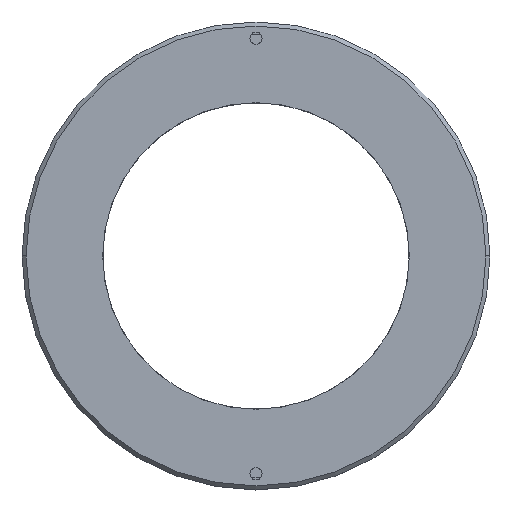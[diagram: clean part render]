
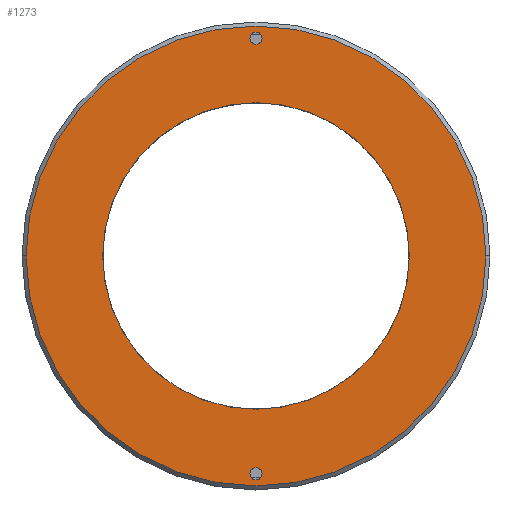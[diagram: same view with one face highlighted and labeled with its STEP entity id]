
A CAD part, top view. The second image highlights one B-rep face of the part: STEP entity #1273.
In plain terms, the highlighted planar face has unit normal (0, 0, 1).
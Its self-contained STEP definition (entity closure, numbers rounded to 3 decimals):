
#37 = DIRECTION ( 'NONE',  ( 0., -1., 0. ) ) ;
#50 = AXIS2_PLACEMENT_3D ( 'NONE', #1217, #609, #1316 ) ;
#57 = DIRECTION ( 'NONE',  ( 0., 0., 1. ) ) ;
#65 = DIRECTION ( 'NONE',  ( 0., 0., 1. ) ) ;
#71 = CIRCLE ( 'NONE', #831, 0.75 ) ;
#127 = CIRCLE ( 'NONE', #737, 0.75 ) ;
#217 = CARTESIAN_POINT ( 'NONE',  ( 8.816, -21.883, 7. ) ) ;
#232 = FACE_BOUND ( 'NONE', #1011, .T. ) ;
#262 = CARTESIAN_POINT ( 'NONE',  ( 9.566, -13.883, 7. ) ) ;
#269 = AXIS2_PLACEMENT_3D ( 'NONE', #1143, #534, #37 ) ;
#271 = DIRECTION ( 'NONE',  ( 0., 0., 1. ) ) ;
#324 = CARTESIAN_POINT ( 'NONE',  ( -18.934, 5.117, 7. ) ) ;
#332 = CARTESIAN_POINT ( 'NONE',  ( 9.566, 5.117, 7. ) ) ;
#363 = CARTESIAN_POINT ( 'NONE',  ( 9.566, 32.117, 7. ) ) ;
#365 = AXIS2_PLACEMENT_3D ( 'NONE', #954, #744, #441 ) ;
#384 = EDGE_CURVE ( 'NONE', #1321, #1322, #961, .T. ) ;
#391 = CIRCLE ( 'NONE', #1032, 0.75 ) ;
#434 = VERTEX_POINT ( 'NONE', #324 ) ;
#437 = DIRECTION ( 'NONE',  ( 1., 0., 0. ) ) ;
#441 = DIRECTION ( 'NONE',  ( 1., 0., 0. ) ) ;
#448 = EDGE_CURVE ( 'NONE', #475, #942, #391, .T. ) ;
#470 = DIRECTION ( 'NONE',  ( 1., 0., 0. ) ) ;
#475 = VERTEX_POINT ( 'NONE', #1289 ) ;
#490 = ORIENTED_EDGE ( 'NONE', *, *, #743, .T. ) ;
#505 = FACE_BOUND ( 'NONE', #1209, .T. ) ;
#510 = EDGE_CURVE ( 'NONE', #600, #759, #866, .T. ) ;
#520 = CARTESIAN_POINT ( 'NONE',  ( 9.566, -21.883, 7. ) ) ;
#526 = ORIENTED_EDGE ( 'NONE', *, *, #1266, .T. ) ;
#534 = DIRECTION ( 'NONE',  ( 0., 0., 1. ) ) ;
#546 = CARTESIAN_POINT ( 'NONE',  ( 38.066, 5.117, 7. ) ) ;
#548 = FACE_OUTER_BOUND ( 'NONE', #1247, .T. ) ;
#600 = VERTEX_POINT ( 'NONE', #217 ) ;
#609 = DIRECTION ( 'NONE',  ( 0., 0., 1. ) ) ;
#610 = ORIENTED_EDGE ( 'NONE', *, *, #704, .F. ) ;
#624 = EDGE_LOOP ( 'NONE', ( #708, #1106 ) ) ;
#633 = DIRECTION ( 'NONE',  ( -1., 0., 0. ) ) ;
#680 = CARTESIAN_POINT ( 'NONE',  ( 9.566, 32.117, 7. ) ) ;
#691 = CARTESIAN_POINT ( 'NONE',  ( 9.566, 5.117, 7. ) ) ;
#704 = EDGE_CURVE ( 'NONE', #942, #475, #127, .T. ) ;
#708 = ORIENTED_EDGE ( 'NONE', *, *, #891, .F. ) ;
#731 = CARTESIAN_POINT ( 'NONE',  ( 10.316, 32.117, 7. ) ) ;
#737 = AXIS2_PLACEMENT_3D ( 'NONE', #363, #1080, #470 ) ;
#743 = EDGE_CURVE ( 'NONE', #1294, #434, #1192, .T. ) ;
#744 = DIRECTION ( 'NONE',  ( 0., 0., 1. ) ) ;
#759 = VERTEX_POINT ( 'NONE', #1119 ) ;
#772 = DIRECTION ( 'NONE',  ( 1., 0., 0. ) ) ;
#781 = DIRECTION ( 'NONE',  ( 1., 0., 0. ) ) ;
#819 = CIRCLE ( 'NONE', #1074, 28.5 ) ;
#831 = AXIS2_PLACEMENT_3D ( 'NONE', #520, #1236, #633 ) ;
#866 = CIRCLE ( 'NONE', #50, 0.75 ) ;
#870 = AXIS2_PLACEMENT_3D ( 'NONE', #888, #271, #984 ) ;
#873 = CIRCLE ( 'NONE', #870, 19. ) ;
#888 = CARTESIAN_POINT ( 'NONE',  ( 9.566, 5.117, 7. ) ) ;
#891 = EDGE_CURVE ( 'NONE', #759, #600, #71, .T. ) ;
#942 = VERTEX_POINT ( 'NONE', #731 ) ;
#954 = CARTESIAN_POINT ( 'NONE',  ( 9.566, 5.117, 7. ) ) ;
#956 = ORIENTED_EDGE ( 'NONE', *, *, #1125, .F. ) ;
#961 = CIRCLE ( 'NONE', #269, 19. ) ;
#984 = DIRECTION ( 'NONE',  ( 0., -1., 0. ) ) ;
#1011 = EDGE_LOOP ( 'NONE', ( #610, #1265 ) ) ;
#1032 = AXIS2_PLACEMENT_3D ( 'NONE', #680, #57, #772 ) ;
#1040 = DIRECTION ( 'NONE',  ( 0., 0., 1. ) ) ;
#1044 = PLANE ( 'NONE',  #365 ) ;
#1048 = FACE_BOUND ( 'NONE', #624, .T. ) ;
#1074 = AXIS2_PLACEMENT_3D ( 'NONE', #332, #1040, #437 ) ;
#1076 = AXIS2_PLACEMENT_3D ( 'NONE', #691, #65, #781 ) ;
#1080 = DIRECTION ( 'NONE',  ( 0., 0., 1. ) ) ;
#1106 = ORIENTED_EDGE ( 'NONE', *, *, #510, .F. ) ;
#1119 = CARTESIAN_POINT ( 'NONE',  ( 10.316, -21.883, 7. ) ) ;
#1125 = EDGE_CURVE ( 'NONE', #1322, #1321, #873, .T. ) ;
#1143 = CARTESIAN_POINT ( 'NONE',  ( 9.566, 5.117, 7. ) ) ;
#1192 = CIRCLE ( 'NONE', #1076, 28.5 ) ;
#1203 = ORIENTED_EDGE ( 'NONE', *, *, #384, .F. ) ;
#1209 = EDGE_LOOP ( 'NONE', ( #956, #1203 ) ) ;
#1217 = CARTESIAN_POINT ( 'NONE',  ( 9.566, -21.883, 7. ) ) ;
#1236 = DIRECTION ( 'NONE',  ( 0., 0., 1. ) ) ;
#1247 = EDGE_LOOP ( 'NONE', ( #526, #490 ) ) ;
#1265 = ORIENTED_EDGE ( 'NONE', *, *, #448, .F. ) ;
#1266 = EDGE_CURVE ( 'NONE', #434, #1294, #819, .T. ) ;
#1273 = ADVANCED_FACE ( 'NONE', ( #1048, #232, #548, #505 ), #1044, .T. ) ;
#1285 = CARTESIAN_POINT ( 'NONE',  ( 9.566, 24.117, 7. ) ) ;
#1289 = CARTESIAN_POINT ( 'NONE',  ( 8.816, 32.117, 7. ) ) ;
#1294 = VERTEX_POINT ( 'NONE', #546 ) ;
#1316 = DIRECTION ( 'NONE',  ( -1., 0., 0. ) ) ;
#1321 = VERTEX_POINT ( 'NONE', #1285 ) ;
#1322 = VERTEX_POINT ( 'NONE', #262 ) ;
